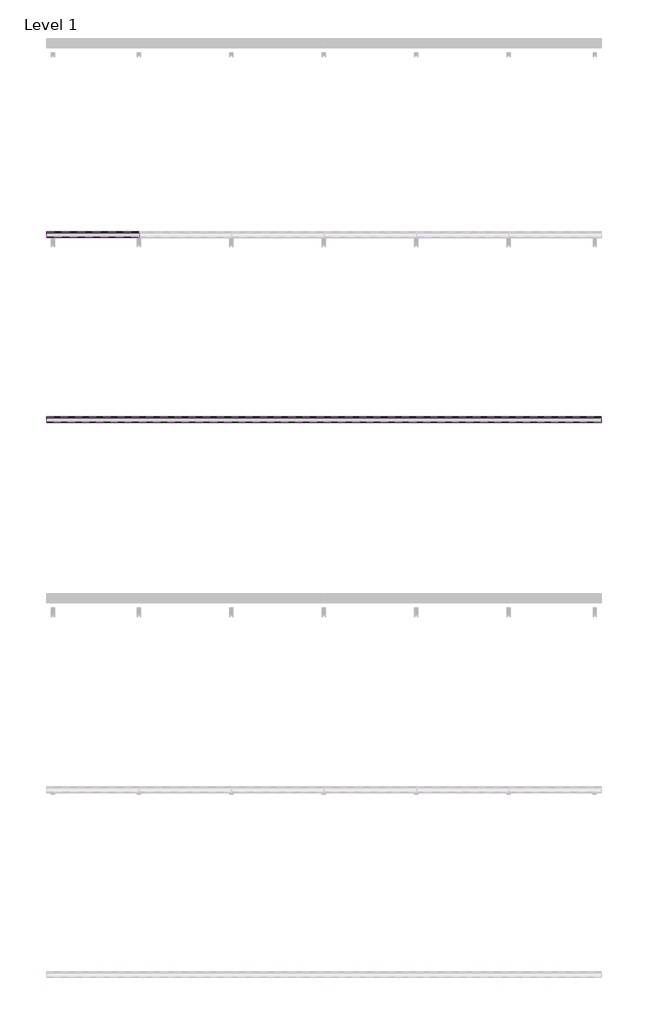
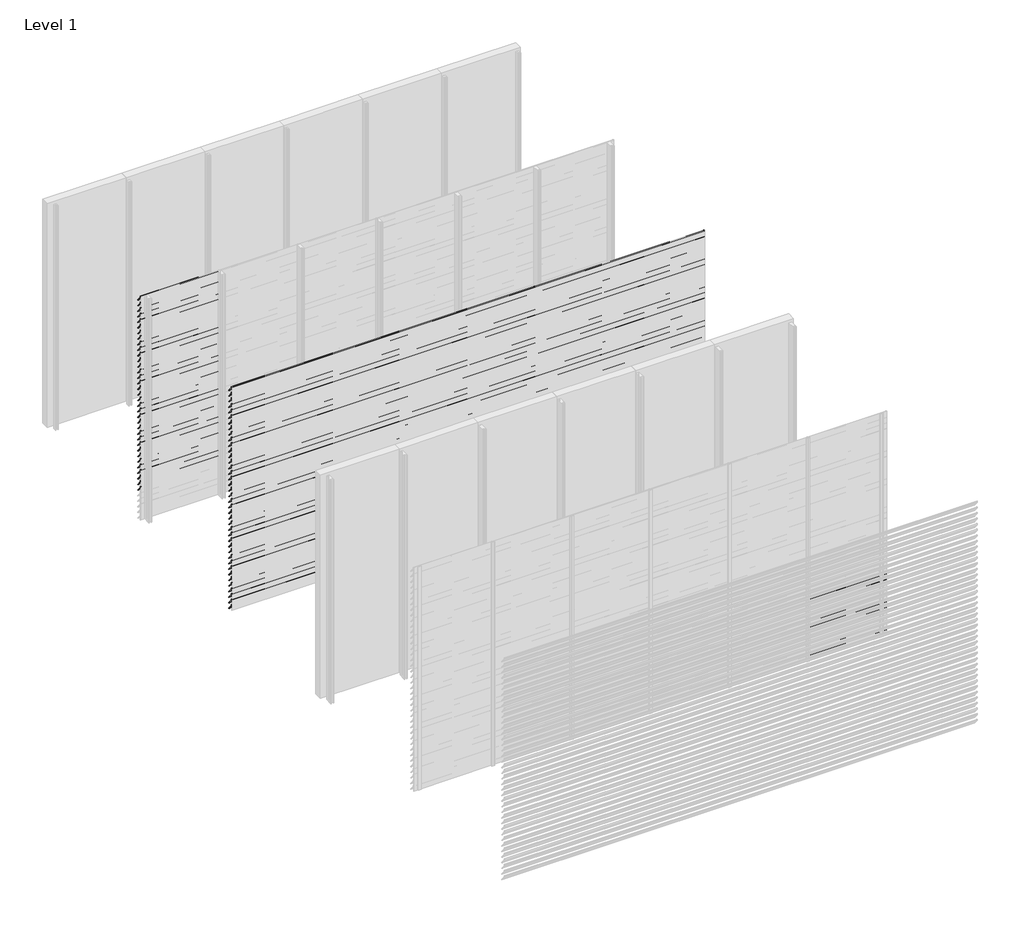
# One storey, part 23 of 35: 86 proxies.
"""IFC4 building model written with IfcOpenShell, lengths in millimetres."""

from ifc_helpers import new_model, si_unit, frame, origin, place, context, project, spatial, polyline, outline, extrude, element, save

model = new_model("IFC4")

# Units and contexts
model_context = context("Model", 3, world=origin())
ifc_project = project(units=[si_unit("LENGTHUNIT", "METRE", prefix="MILLI")], contexts=[model_context])

# Site, building, storey
site = spatial("IfcSite", under=ifc_project)
building = spatial("IfcBuilding", under=site)
storey = spatial("IfcBuildingStorey", under=building, Name="Level 1", Elevation=0.0)

# Proxies
placement = place(None, origin())
element("IfcBuildingElementProxy", 1, Name="Wall Sweeps", at=placement, inside=storey, context=model_context, shape_type="SweptSolid", body=[
    extrude(outline(polyline([(-17996.5, 3000.0), (-17996.5, 2985.5463701), (-17934.5, 2913.9330051), (-17934.5, 2910.4), (-17936.0, 2910.4), (-17936.0, 2913.3738975), (-17998.0, 2984.9872626), (-17998.0, 3000.0), (-17996.5, 3000.0)])), frame((0.0, 0.0, 0.0), z_axis=(1.0, 0.0, 0.0), x_axis=(0.0, 1.0, 0.0)), (0.0, 0.0, 1.0), 1000.0),
])
element("IfcBuildingElementProxy", 2, Name="Wall Sweeps", at=placement, inside=storey, context=model_context, shape_type="SweptSolid", body=[
    extrude(outline(polyline([(-17996.5, 2925.0), (-17996.5, 2910.5463701), (-17934.5, 2838.9330051), (-17934.5, 2835.4), (-17936.0, 2835.4), (-17936.0, 2838.3738975), (-17998.0, 2909.9872626), (-17998.0, 2925.0), (-17996.5, 2925.0)])), frame((0.0, 0.0, 0.0), z_axis=(1.0, 0.0, 0.0), x_axis=(0.0, 1.0, 0.0)), (0.0, 0.0, 1.0), 1000.0),
])
element("IfcBuildingElementProxy", 3, Name="Wall Sweeps", at=placement, inside=storey, context=model_context, shape_type="SweptSolid", body=[
    extrude(outline(polyline([(-17996.5, 2850.0), (-17996.5, 2835.5463701), (-17934.5, 2763.9330051), (-17934.5, 2760.4), (-17936.0, 2760.4), (-17936.0, 2763.3738975), (-17998.0, 2834.9872626), (-17998.0, 2850.0), (-17996.5, 2850.0)])), frame((0.0, 0.0, 0.0), z_axis=(1.0, 0.0, 0.0), x_axis=(0.0, 1.0, 0.0)), (0.0, 0.0, 1.0), 1000.0),
])
element("IfcBuildingElementProxy", 4, Name="Wall Sweeps", at=placement, inside=storey, context=model_context, shape_type="SweptSolid", body=[
    extrude(outline(polyline([(-17996.5, 2775.0), (-17996.5, 2760.5463701), (-17934.5, 2688.9330051), (-17934.5, 2685.4), (-17936.0, 2685.4), (-17936.0, 2688.3738975), (-17998.0, 2759.9872626), (-17998.0, 2775.0), (-17996.5, 2775.0)])), frame((0.0, 0.0, 0.0), z_axis=(1.0, 0.0, 0.0), x_axis=(0.0, 1.0, 0.0)), (0.0, 0.0, 1.0), 1000.0),
])
element("IfcBuildingElementProxy", 5, Name="Wall Sweeps", at=placement, inside=storey, context=model_context, shape_type="SweptSolid", body=[
    extrude(outline(polyline([(-17996.5, 2700.0), (-17996.5, 2685.5463701), (-17934.5, 2613.9330051), (-17934.5, 2610.4), (-17936.0, 2610.4), (-17936.0, 2613.3738975), (-17998.0, 2684.9872626), (-17998.0, 2700.0), (-17996.5, 2700.0)])), frame((0.0, 0.0, 0.0), z_axis=(1.0, 0.0, 0.0), x_axis=(0.0, 1.0, 0.0)), (0.0, 0.0, 1.0), 1000.0),
])
element("IfcBuildingElementProxy", 6, Name="Wall Sweeps", at=placement, inside=storey, context=model_context, shape_type="SweptSolid", body=[
    extrude(outline(polyline([(-17996.5, 2625.0), (-17996.5, 2610.5463701), (-17934.5, 2538.9330051), (-17934.5, 2535.4), (-17936.0, 2535.4), (-17936.0, 2538.3738975), (-17998.0, 2609.9872626), (-17998.0, 2625.0), (-17996.5, 2625.0)])), frame((0.0, 0.0, 0.0), z_axis=(1.0, 0.0, 0.0), x_axis=(0.0, 1.0, 0.0)), (0.0, 0.0, 1.0), 1000.0),
])
element("IfcBuildingElementProxy", 7, Name="Wall Sweeps", at=placement, inside=storey, context=model_context, shape_type="SweptSolid", body=[
    extrude(outline(polyline([(-17996.5, 2550.0), (-17996.5, 2535.5463701), (-17934.5, 2463.9330051), (-17934.5, 2460.4), (-17936.0, 2460.4), (-17936.0, 2463.3738975), (-17998.0, 2534.9872626), (-17998.0, 2550.0), (-17996.5, 2550.0)])), frame((0.0, 0.0, 0.0), z_axis=(1.0, 0.0, 0.0), x_axis=(0.0, 1.0, 0.0)), (0.0, 0.0, 1.0), 1000.0),
])
element("IfcBuildingElementProxy", 8, Name="Wall Sweeps", at=placement, inside=storey, context=model_context, shape_type="SweptSolid", body=[
    extrude(outline(polyline([(-17996.5, 2475.0), (-17996.5, 2460.5463701), (-17934.5, 2388.9330051), (-17934.5, 2385.4), (-17936.0, 2385.4), (-17936.0, 2388.3738975), (-17998.0, 2459.9872626), (-17998.0, 2475.0), (-17996.5, 2475.0)])), frame((0.0, 0.0, 0.0), z_axis=(1.0, 0.0, 0.0), x_axis=(0.0, 1.0, 0.0)), (0.0, 0.0, 1.0), 1000.0),
])
element("IfcBuildingElementProxy", 9, Name="Wall Sweeps", at=placement, inside=storey, context=model_context, shape_type="SweptSolid", body=[
    extrude(outline(polyline([(-17996.5, 2400.0), (-17996.5, 2385.5463701), (-17934.5, 2313.9330051), (-17934.5, 2310.4), (-17936.0, 2310.4), (-17936.0, 2313.3738975), (-17998.0, 2384.9872626), (-17998.0, 2400.0), (-17996.5, 2400.0)])), frame((0.0, 0.0, 0.0), z_axis=(1.0, 0.0, 0.0), x_axis=(0.0, 1.0, 0.0)), (0.0, 0.0, 1.0), 1000.0),
])
element("IfcBuildingElementProxy", 10, Name="Wall Sweeps", at=placement, inside=storey, context=model_context, shape_type="SweptSolid", body=[
    extrude(outline(polyline([(-17996.5, 2325.0), (-17996.5, 2310.5463701), (-17934.5, 2238.9330051), (-17934.5, 2235.4), (-17936.0, 2235.4), (-17936.0, 2238.3738975), (-17998.0, 2309.9872626), (-17998.0, 2325.0), (-17996.5, 2325.0)])), frame((0.0, 0.0, 0.0), z_axis=(1.0, 0.0, 0.0), x_axis=(0.0, 1.0, 0.0)), (0.0, 0.0, 1.0), 1000.0),
])
element("IfcBuildingElementProxy", 11, Name="Wall Sweeps", at=placement, inside=storey, context=model_context, shape_type="SweptSolid", body=[
    extrude(outline(polyline([(-17996.5, 2250.0), (-17996.5, 2235.5463701), (-17934.5, 2163.9330051), (-17934.5, 2160.4), (-17936.0, 2160.4), (-17936.0, 2163.3738975), (-17998.0, 2234.9872626), (-17998.0, 2250.0), (-17996.5, 2250.0)])), frame((0.0, 0.0, 0.0), z_axis=(1.0, 0.0, 0.0), x_axis=(0.0, 1.0, 0.0)), (0.0, 0.0, 1.0), 1000.0),
])
element("IfcBuildingElementProxy", 12, Name="Wall Sweeps", at=placement, inside=storey, context=model_context, shape_type="SweptSolid", body=[
    extrude(outline(polyline([(-17996.5, 2175.0), (-17996.5, 2160.5463701), (-17934.5, 2088.9330051), (-17934.5, 2085.4), (-17936.0, 2085.4), (-17936.0, 2088.3738975), (-17998.0, 2159.9872626), (-17998.0, 2175.0), (-17996.5, 2175.0)])), frame((0.0, 0.0, 0.0), z_axis=(1.0, 0.0, 0.0), x_axis=(0.0, 1.0, 0.0)), (0.0, 0.0, 1.0), 1000.0),
])
element("IfcBuildingElementProxy", 13, Name="Wall Sweeps", at=placement, inside=storey, context=model_context, shape_type="SweptSolid", body=[
    extrude(outline(polyline([(-17996.5, 2100.0), (-17996.5, 2085.5463701), (-17934.5, 2013.9330051), (-17934.5, 2010.4), (-17936.0, 2010.4), (-17936.0, 2013.3738975), (-17998.0, 2084.9872626), (-17998.0, 2100.0), (-17996.5, 2100.0)])), frame((0.0, 0.0, 0.0), z_axis=(1.0, 0.0, 0.0), x_axis=(0.0, 1.0, 0.0)), (0.0, 0.0, 1.0), 1000.0),
])
element("IfcBuildingElementProxy", 14, Name="Wall Sweeps", at=placement, inside=storey, context=model_context, shape_type="SweptSolid", body=[
    extrude(outline(polyline([(-17996.5, 2025.0), (-17996.5, 2010.5463701), (-17934.5, 1938.9330051), (-17934.5, 1935.4), (-17936.0, 1935.4), (-17936.0, 1938.3738975), (-17998.0, 2009.9872626), (-17998.0, 2025.0), (-17996.5, 2025.0)])), frame((0.0, 0.0, 0.0), z_axis=(1.0, 0.0, 0.0), x_axis=(0.0, 1.0, 0.0)), (0.0, 0.0, 1.0), 1000.0),
])
element("IfcBuildingElementProxy", 15, Name="Wall Sweeps", at=placement, inside=storey, context=model_context, shape_type="SweptSolid", body=[
    extrude(outline(polyline([(-17996.5, 1950.0), (-17996.5, 1935.5463701), (-17934.5, 1863.9330051), (-17934.5, 1860.4), (-17936.0, 1860.4), (-17936.0, 1863.3738975), (-17998.0, 1934.9872626), (-17998.0, 1950.0), (-17996.5, 1950.0)])), frame((0.0, 0.0, 0.0), z_axis=(1.0, 0.0, 0.0), x_axis=(0.0, 1.0, 0.0)), (0.0, 0.0, 1.0), 1000.0),
])
element("IfcBuildingElementProxy", 16, Name="Wall Sweeps", at=placement, inside=storey, context=model_context, shape_type="SweptSolid", body=[
    extrude(outline(polyline([(-17996.5, 1875.0), (-17996.5, 1860.5463701), (-17934.5, 1788.9330051), (-17934.5, 1785.4), (-17936.0, 1785.4), (-17936.0, 1788.3738975), (-17998.0, 1859.9872626), (-17998.0, 1875.0), (-17996.5, 1875.0)])), frame((0.0, 0.0, 0.0), z_axis=(1.0, 0.0, 0.0), x_axis=(0.0, 1.0, 0.0)), (0.0, 0.0, 1.0), 1000.0),
])
element("IfcBuildingElementProxy", 17, Name="Wall Sweeps", at=placement, inside=storey, context=model_context, shape_type="SweptSolid", body=[
    extrude(outline(polyline([(-17996.5, 1800.0), (-17996.5, 1785.5463701), (-17934.5, 1713.9330051), (-17934.5, 1710.4), (-17936.0, 1710.4), (-17936.0, 1713.3738975), (-17998.0, 1784.9872626), (-17998.0, 1800.0), (-17996.5, 1800.0)])), frame((0.0, 0.0, 0.0), z_axis=(1.0, 0.0, 0.0), x_axis=(0.0, 1.0, 0.0)), (0.0, 0.0, 1.0), 1000.0),
])
element("IfcBuildingElementProxy", 18, Name="Wall Sweeps", at=placement, inside=storey, context=model_context, shape_type="SweptSolid", body=[
    extrude(outline(polyline([(-17996.5, 1725.0), (-17996.5, 1710.5463701), (-17934.5, 1638.9330051), (-17934.5, 1635.4), (-17936.0, 1635.4), (-17936.0, 1638.3738975), (-17998.0, 1709.9872626), (-17998.0, 1725.0), (-17996.5, 1725.0)])), frame((0.0, 0.0, 0.0), z_axis=(1.0, 0.0, 0.0), x_axis=(0.0, 1.0, 0.0)), (0.0, 0.0, 1.0), 1000.0),
])
element("IfcBuildingElementProxy", 19, Name="Wall Sweeps", at=placement, inside=storey, context=model_context, shape_type="SweptSolid", body=[
    extrude(outline(polyline([(-17996.5, 1650.0), (-17996.5, 1635.5463701), (-17934.5, 1563.9330051), (-17934.5, 1560.4), (-17936.0, 1560.4), (-17936.0, 1563.3738975), (-17998.0, 1634.9872626), (-17998.0, 1650.0), (-17996.5, 1650.0)])), frame((0.0, 0.0, 0.0), z_axis=(1.0, 0.0, 0.0), x_axis=(0.0, 1.0, 0.0)), (0.0, 0.0, 1.0), 1000.0),
])
element("IfcBuildingElementProxy", 20, Name="Wall Sweeps", at=placement, inside=storey, context=model_context, shape_type="SweptSolid", body=[
    extrude(outline(polyline([(-17996.5, 1575.0), (-17996.5, 1560.5463701), (-17934.5, 1488.9330051), (-17934.5, 1485.4), (-17936.0, 1485.4), (-17936.0, 1488.3738975), (-17998.0, 1559.9872626), (-17998.0, 1575.0), (-17996.5, 1575.0)])), frame((0.0, 0.0, 0.0), z_axis=(1.0, 0.0, 0.0), x_axis=(0.0, 1.0, 0.0)), (0.0, 0.0, 1.0), 1000.0),
])
element("IfcBuildingElementProxy", 21, Name="Wall Sweeps", at=placement, inside=storey, context=model_context, shape_type="SweptSolid", body=[
    extrude(outline(polyline([(-17996.5, 1500.0), (-17996.5, 1485.5463701), (-17934.5, 1413.9330051), (-17934.5, 1410.4), (-17936.0, 1410.4), (-17936.0, 1413.3738975), (-17998.0, 1484.9872626), (-17998.0, 1500.0), (-17996.5, 1500.0)])), frame((0.0, 0.0, 0.0), z_axis=(1.0, 0.0, 0.0), x_axis=(0.0, 1.0, 0.0)), (0.0, 0.0, 1.0), 1000.0),
])
element("IfcBuildingElementProxy", 22, Name="Wall Sweeps", at=placement, inside=storey, context=model_context, shape_type="SweptSolid", body=[
    extrude(outline(polyline([(-17996.5, 1425.0), (-17996.5, 1410.5463701), (-17934.5, 1338.9330051), (-17934.5, 1335.4), (-17936.0, 1335.4), (-17936.0, 1338.3738975), (-17998.0, 1409.9872626), (-17998.0, 1425.0), (-17996.5, 1425.0)])), frame((0.0, 0.0, 0.0), z_axis=(1.0, 0.0, 0.0), x_axis=(0.0, 1.0, 0.0)), (0.0, 0.0, 1.0), 1000.0),
])
element("IfcBuildingElementProxy", 23, Name="Wall Sweeps", at=placement, inside=storey, context=model_context, shape_type="SweptSolid", body=[
    extrude(outline(polyline([(-17996.5, 1350.0), (-17996.5, 1335.5463701), (-17934.5, 1263.9330051), (-17934.5, 1260.4), (-17936.0, 1260.4), (-17936.0, 1263.3738975), (-17998.0, 1334.9872626), (-17998.0, 1350.0), (-17996.5, 1350.0)])), frame((0.0, 0.0, 0.0), z_axis=(1.0, 0.0, 0.0), x_axis=(0.0, 1.0, 0.0)), (0.0, 0.0, 1.0), 1000.0),
])
element("IfcBuildingElementProxy", 24, Name="Wall Sweeps", at=placement, inside=storey, context=model_context, shape_type="SweptSolid", body=[
    extrude(outline(polyline([(-17996.5, 1275.0), (-17996.5, 1260.5463701), (-17934.5, 1188.9330051), (-17934.5, 1185.4), (-17936.0, 1185.4), (-17936.0, 1188.3738975), (-17998.0, 1259.9872626), (-17998.0, 1275.0), (-17996.5, 1275.0)])), frame((0.0, 0.0, 0.0), z_axis=(1.0, 0.0, 0.0), x_axis=(0.0, 1.0, 0.0)), (0.0, 0.0, 1.0), 1000.0),
])
element("IfcBuildingElementProxy", 25, Name="Wall Sweeps", at=placement, inside=storey, context=model_context, shape_type="SweptSolid", body=[
    extrude(outline(polyline([(-17996.5, 1200.0), (-17996.5, 1185.5463701), (-17934.5, 1113.9330051), (-17934.5, 1110.4), (-17936.0, 1110.4), (-17936.0, 1113.3738975), (-17998.0, 1184.9872626), (-17998.0, 1200.0), (-17996.5, 1200.0)])), frame((0.0, 0.0, 0.0), z_axis=(1.0, 0.0, 0.0), x_axis=(0.0, 1.0, 0.0)), (0.0, 0.0, 1.0), 1000.0),
])
element("IfcBuildingElementProxy", 26, Name="Wall Sweeps", at=placement, inside=storey, context=model_context, shape_type="SweptSolid", body=[
    extrude(outline(polyline([(-17996.5, 1125.0), (-17996.5, 1110.5463701), (-17934.5, 1038.9330051), (-17934.5, 1035.4), (-17936.0, 1035.4), (-17936.0, 1038.3738975), (-17998.0, 1109.9872626), (-17998.0, 1125.0), (-17996.5, 1125.0)])), frame((0.0, 0.0, 0.0), z_axis=(1.0, 0.0, 0.0), x_axis=(0.0, 1.0, 0.0)), (0.0, 0.0, 1.0), 1000.0),
])
element("IfcBuildingElementProxy", 27, Name="Wall Sweeps", at=placement, inside=storey, context=model_context, shape_type="SweptSolid", body=[
    extrude(outline(polyline([(-17996.5, 1050.0), (-17996.5, 1035.5463701), (-17934.5, 963.9330051), (-17934.5, 960.4), (-17936.0, 960.4), (-17936.0, 963.3738975), (-17998.0, 1034.9872626), (-17998.0, 1050.0), (-17996.5, 1050.0)])), frame((0.0, 0.0, 0.0), z_axis=(1.0, 0.0, 0.0), x_axis=(0.0, 1.0, 0.0)), (0.0, 0.0, 1.0), 1000.0),
])
element("IfcBuildingElementProxy", 28, Name="Wall Sweeps", at=placement, inside=storey, context=model_context, shape_type="SweptSolid", body=[
    extrude(outline(polyline([(-17996.5, 975.0), (-17996.5, 960.5463701), (-17934.5, 888.9330051), (-17934.5, 885.4), (-17936.0, 885.4), (-17936.0, 888.3738975), (-17998.0, 959.9872626), (-17998.0, 975.0), (-17996.5, 975.0)])), frame((0.0, 0.0, 0.0), z_axis=(1.0, 0.0, 0.0), x_axis=(0.0, 1.0, 0.0)), (0.0, 0.0, 1.0), 1000.0),
])
element("IfcBuildingElementProxy", 29, Name="Wall Sweeps", at=placement, inside=storey, context=model_context, shape_type="SweptSolid", body=[
    extrude(outline(polyline([(-17996.5, 900.0), (-17996.5, 885.5463701), (-17934.5, 813.9330051), (-17934.5, 810.4), (-17936.0, 810.4), (-17936.0, 813.3738975), (-17998.0, 884.9872626), (-17998.0, 900.0), (-17996.5, 900.0)])), frame((0.0, 0.0, 0.0), z_axis=(1.0, 0.0, 0.0), x_axis=(0.0, 1.0, 0.0)), (0.0, 0.0, 1.0), 1000.0),
])
element("IfcBuildingElementProxy", 30, Name="Wall Sweeps", at=placement, inside=storey, context=model_context, shape_type="SweptSolid", body=[
    extrude(outline(polyline([(-17996.5, 825.0), (-17996.5, 810.5463701), (-17934.5, 738.9330051), (-17934.5, 735.4), (-17936.0, 735.4), (-17936.0, 738.3738975), (-17998.0, 809.9872626), (-17998.0, 825.0), (-17996.5, 825.0)])), frame((0.0, 0.0, 0.0), z_axis=(1.0, 0.0, 0.0), x_axis=(0.0, 1.0, 0.0)), (0.0, 0.0, 1.0), 1000.0),
])
element("IfcBuildingElementProxy", 31, Name="Wall Sweeps", at=placement, inside=storey, context=model_context, shape_type="SweptSolid", body=[
    extrude(outline(polyline([(-17996.5, 750.0), (-17996.5, 735.5463701), (-17934.5, 663.9330051), (-17934.5, 660.4), (-17936.0, 660.4), (-17936.0, 663.3738975), (-17998.0, 734.9872626), (-17998.0, 750.0), (-17996.5, 750.0)])), frame((0.0, 0.0, 0.0), z_axis=(1.0, 0.0, 0.0), x_axis=(0.0, 1.0, 0.0)), (0.0, 0.0, 1.0), 1000.0),
])
element("IfcBuildingElementProxy", 32, Name="Wall Sweeps", at=placement, inside=storey, context=model_context, shape_type="SweptSolid", body=[
    extrude(outline(polyline([(-17996.5, 675.0), (-17996.5, 660.5463701), (-17934.5, 588.9330051), (-17934.5, 585.4), (-17936.0, 585.4), (-17936.0, 588.3738975), (-17998.0, 659.9872626), (-17998.0, 675.0), (-17996.5, 675.0)])), frame((0.0, 0.0, 0.0), z_axis=(1.0, 0.0, 0.0), x_axis=(0.0, 1.0, 0.0)), (0.0, 0.0, 1.0), 1000.0),
])
element("IfcBuildingElementProxy", 33, Name="Wall Sweeps", at=placement, inside=storey, context=model_context, shape_type="SweptSolid", body=[
    extrude(outline(polyline([(-17996.5, 600.0), (-17996.5, 585.5463701), (-17934.5, 513.9330051), (-17934.5, 510.4), (-17936.0, 510.4), (-17936.0, 513.3738975), (-17998.0, 584.9872626), (-17998.0, 600.0), (-17996.5, 600.0)])), frame((0.0, 0.0, 0.0), z_axis=(1.0, 0.0, 0.0), x_axis=(0.0, 1.0, 0.0)), (0.0, 0.0, 1.0), 1000.0),
])
element("IfcBuildingElementProxy", 34, Name="Wall Sweeps", at=placement, inside=storey, context=model_context, shape_type="SweptSolid", body=[
    extrude(outline(polyline([(-17996.5, 525.0), (-17996.5, 510.5463701), (-17934.5, 438.9330051), (-17934.5, 435.4), (-17936.0, 435.4), (-17936.0, 438.3738975), (-17998.0, 509.9872626), (-17998.0, 525.0), (-17996.5, 525.0)])), frame((0.0, 0.0, 0.0), z_axis=(1.0, 0.0, 0.0), x_axis=(0.0, 1.0, 0.0)), (0.0, 0.0, 1.0), 1000.0),
])
element("IfcBuildingElementProxy", 35, Name="Wall Sweeps", at=placement, inside=storey, context=model_context, shape_type="SweptSolid", body=[
    extrude(outline(polyline([(-17996.5, 450.0), (-17996.5, 435.5463701), (-17934.5, 363.9330051), (-17934.5, 360.4), (-17936.0, 360.4), (-17936.0, 363.3738975), (-17998.0, 434.9872626), (-17998.0, 450.0), (-17996.5, 450.0)])), frame((0.0, 0.0, 0.0), z_axis=(1.0, 0.0, 0.0), x_axis=(0.0, 1.0, 0.0)), (0.0, 0.0, 1.0), 1000.0),
])
element("IfcBuildingElementProxy", 36, Name="Wall Sweeps", at=placement, inside=storey, context=model_context, shape_type="SweptSolid", body=[
    extrude(outline(polyline([(-19996.5, 3000.0), (-19996.5, 2985.5463701), (-19934.5, 2913.9330051), (-19934.5, 2910.4), (-19936.0, 2910.4), (-19936.0, 2913.3738975), (-19998.0, 2984.9872626), (-19998.0, 3000.0), (-19996.5, 3000.0)])), frame((0.0, 0.0, 0.0), z_axis=(1.0, 0.0, 0.0), x_axis=(0.0, 1.0, 0.0)), (0.0, 0.0, 1.0), 6000.0),
])
element("IfcBuildingElementProxy", 37, Name="Wall Sweeps", at=placement, inside=storey, context=model_context, shape_type="SweptSolid", body=[
    extrude(outline(polyline([(-19996.5, 2925.0), (-19996.5, 2910.5463701), (-19934.5, 2838.9330051), (-19934.5, 2835.4), (-19936.0, 2835.4), (-19936.0, 2838.3738975), (-19998.0, 2909.9872626), (-19998.0, 2925.0), (-19996.5, 2925.0)])), frame((0.0, 0.0, 0.0), z_axis=(1.0, 0.0, 0.0), x_axis=(0.0, 1.0, 0.0)), (0.0, 0.0, 1.0), 6000.0),
])
element("IfcBuildingElementProxy", 38, Name="Wall Sweeps", at=placement, inside=storey, context=model_context, shape_type="SweptSolid", body=[
    extrude(outline(polyline([(-19996.5, 2850.0), (-19996.5, 2835.5463701), (-19934.5, 2763.9330051), (-19934.5, 2760.4), (-19936.0, 2760.4), (-19936.0, 2763.3738975), (-19998.0, 2834.9872626), (-19998.0, 2850.0), (-19996.5, 2850.0)])), frame((0.0, 0.0, 0.0), z_axis=(1.0, 0.0, 0.0), x_axis=(0.0, 1.0, 0.0)), (0.0, 0.0, 1.0), 6000.0),
])
element("IfcBuildingElementProxy", 39, Name="Wall Sweeps", at=placement, inside=storey, context=model_context, shape_type="SweptSolid", body=[
    extrude(outline(polyline([(-19996.5, 2775.0), (-19996.5, 2760.5463701), (-19934.5, 2688.9330051), (-19934.5, 2685.4), (-19936.0, 2685.4), (-19936.0, 2688.3738975), (-19998.0, 2759.9872626), (-19998.0, 2775.0), (-19996.5, 2775.0)])), frame((0.0, 0.0, 0.0), z_axis=(1.0, 0.0, 0.0), x_axis=(0.0, 1.0, 0.0)), (0.0, 0.0, 1.0), 6000.0),
])
element("IfcBuildingElementProxy", 40, Name="Wall Sweeps", at=placement, inside=storey, context=model_context, shape_type="SweptSolid", body=[
    extrude(outline(polyline([(-19996.5, 2700.0), (-19996.5, 2685.5463701), (-19934.5, 2613.9330051), (-19934.5, 2610.4), (-19936.0, 2610.4), (-19936.0, 2613.3738975), (-19998.0, 2684.9872626), (-19998.0, 2700.0), (-19996.5, 2700.0)])), frame((0.0, 0.0, 0.0), z_axis=(1.0, 0.0, 0.0), x_axis=(0.0, 1.0, 0.0)), (0.0, 0.0, 1.0), 6000.0),
])
element("IfcBuildingElementProxy", 41, Name="Wall Sweeps", at=placement, inside=storey, context=model_context, shape_type="SweptSolid", body=[
    extrude(outline(polyline([(-19996.5, 2625.0), (-19996.5, 2610.5463701), (-19934.5, 2538.9330051), (-19934.5, 2535.4), (-19936.0, 2535.4), (-19936.0, 2538.3738975), (-19998.0, 2609.9872626), (-19998.0, 2625.0), (-19996.5, 2625.0)])), frame((0.0, 0.0, 0.0), z_axis=(1.0, 0.0, 0.0), x_axis=(0.0, 1.0, 0.0)), (0.0, 0.0, 1.0), 6000.0),
])
element("IfcBuildingElementProxy", 42, Name="Wall Sweeps", at=placement, inside=storey, context=model_context, shape_type="SweptSolid", body=[
    extrude(outline(polyline([(-19996.5, 2550.0), (-19996.5, 2535.5463701), (-19934.5, 2463.9330051), (-19934.5, 2460.4), (-19936.0, 2460.4), (-19936.0, 2463.3738975), (-19998.0, 2534.9872626), (-19998.0, 2550.0), (-19996.5, 2550.0)])), frame((0.0, 0.0, 0.0), z_axis=(1.0, 0.0, 0.0), x_axis=(0.0, 1.0, 0.0)), (0.0, 0.0, 1.0), 6000.0),
])
element("IfcBuildingElementProxy", 43, Name="Wall Sweeps", at=placement, inside=storey, context=model_context, shape_type="SweptSolid", body=[
    extrude(outline(polyline([(-19996.5, 2475.0), (-19996.5, 2460.5463701), (-19934.5, 2388.9330051), (-19934.5, 2385.4), (-19936.0, 2385.4), (-19936.0, 2388.3738975), (-19998.0, 2459.9872626), (-19998.0, 2475.0), (-19996.5, 2475.0)])), frame((0.0, 0.0, 0.0), z_axis=(1.0, 0.0, 0.0), x_axis=(0.0, 1.0, 0.0)), (0.0, 0.0, 1.0), 6000.0),
])
element("IfcBuildingElementProxy", 44, Name="Wall Sweeps", at=placement, inside=storey, context=model_context, shape_type="SweptSolid", body=[
    extrude(outline(polyline([(-19996.5, 2400.0), (-19996.5, 2385.5463701), (-19934.5, 2313.9330051), (-19934.5, 2310.4), (-19936.0, 2310.4), (-19936.0, 2313.3738975), (-19998.0, 2384.9872626), (-19998.0, 2400.0), (-19996.5, 2400.0)])), frame((0.0, 0.0, 0.0), z_axis=(1.0, 0.0, 0.0), x_axis=(0.0, 1.0, 0.0)), (0.0, 0.0, 1.0), 6000.0),
])
element("IfcBuildingElementProxy", 45, Name="Wall Sweeps", at=placement, inside=storey, context=model_context, shape_type="SweptSolid", body=[
    extrude(outline(polyline([(-19996.5, 2325.0), (-19996.5, 2310.5463701), (-19934.5, 2238.9330051), (-19934.5, 2235.4), (-19936.0, 2235.4), (-19936.0, 2238.3738975), (-19998.0, 2309.9872626), (-19998.0, 2325.0), (-19996.5, 2325.0)])), frame((0.0, 0.0, 0.0), z_axis=(1.0, 0.0, 0.0), x_axis=(0.0, 1.0, 0.0)), (0.0, 0.0, 1.0), 6000.0),
])
element("IfcBuildingElementProxy", 46, Name="Wall Sweeps", at=placement, inside=storey, context=model_context, shape_type="SweptSolid", body=[
    extrude(outline(polyline([(-19996.5, 2250.0), (-19996.5, 2235.5463701), (-19934.5, 2163.9330051), (-19934.5, 2160.4), (-19936.0, 2160.4), (-19936.0, 2163.3738975), (-19998.0, 2234.9872626), (-19998.0, 2250.0), (-19996.5, 2250.0)])), frame((0.0, 0.0, 0.0), z_axis=(1.0, 0.0, 0.0), x_axis=(0.0, 1.0, 0.0)), (0.0, 0.0, 1.0), 6000.0),
])
element("IfcBuildingElementProxy", 47, Name="Wall Sweeps", at=placement, inside=storey, context=model_context, shape_type="SweptSolid", body=[
    extrude(outline(polyline([(-19996.5, 2175.0), (-19996.5, 2160.5463701), (-19934.5, 2088.9330051), (-19934.5, 2085.4), (-19936.0, 2085.4), (-19936.0, 2088.3738975), (-19998.0, 2159.9872626), (-19998.0, 2175.0), (-19996.5, 2175.0)])), frame((0.0, 0.0, 0.0), z_axis=(1.0, 0.0, 0.0), x_axis=(0.0, 1.0, 0.0)), (0.0, 0.0, 1.0), 6000.0),
])
element("IfcBuildingElementProxy", 48, Name="Wall Sweeps", at=placement, inside=storey, context=model_context, shape_type="SweptSolid", body=[
    extrude(outline(polyline([(-19996.5, 2100.0), (-19996.5, 2085.5463701), (-19934.5, 2013.9330051), (-19934.5, 2010.4), (-19936.0, 2010.4), (-19936.0, 2013.3738975), (-19998.0, 2084.9872626), (-19998.0, 2100.0), (-19996.5, 2100.0)])), frame((0.0, 0.0, 0.0), z_axis=(1.0, 0.0, 0.0), x_axis=(0.0, 1.0, 0.0)), (0.0, 0.0, 1.0), 6000.0),
])
element("IfcBuildingElementProxy", 49, Name="Wall Sweeps", at=placement, inside=storey, context=model_context, shape_type="SweptSolid", body=[
    extrude(outline(polyline([(-19996.5, 2025.0), (-19996.5, 2010.5463701), (-19934.5, 1938.9330051), (-19934.5, 1935.4), (-19936.0, 1935.4), (-19936.0, 1938.3738975), (-19998.0, 2009.9872626), (-19998.0, 2025.0), (-19996.5, 2025.0)])), frame((0.0, 0.0, 0.0), z_axis=(1.0, 0.0, 0.0), x_axis=(0.0, 1.0, 0.0)), (0.0, 0.0, 1.0), 6000.0),
])
element("IfcBuildingElementProxy", 50, Name="Wall Sweeps", at=placement, inside=storey, context=model_context, shape_type="SweptSolid", body=[
    extrude(outline(polyline([(-19996.5, 1950.0), (-19996.5, 1935.5463701), (-19934.5, 1863.9330051), (-19934.5, 1860.4), (-19936.0, 1860.4), (-19936.0, 1863.3738975), (-19998.0, 1934.9872626), (-19998.0, 1950.0), (-19996.5, 1950.0)])), frame((0.0, 0.0, 0.0), z_axis=(1.0, 0.0, 0.0), x_axis=(0.0, 1.0, 0.0)), (0.0, 0.0, 1.0), 6000.0),
])
element("IfcBuildingElementProxy", 51, Name="Wall Sweeps", at=placement, inside=storey, context=model_context, shape_type="SweptSolid", body=[
    extrude(outline(polyline([(-19996.5, 1875.0), (-19996.5, 1860.5463701), (-19934.5, 1788.9330051), (-19934.5, 1785.4), (-19936.0, 1785.4), (-19936.0, 1788.3738975), (-19998.0, 1859.9872626), (-19998.0, 1875.0), (-19996.5, 1875.0)])), frame((0.0, 0.0, 0.0), z_axis=(1.0, 0.0, 0.0), x_axis=(0.0, 1.0, 0.0)), (0.0, 0.0, 1.0), 6000.0),
])
element("IfcBuildingElementProxy", 52, Name="Wall Sweeps", at=placement, inside=storey, context=model_context, shape_type="SweptSolid", body=[
    extrude(outline(polyline([(-19996.5, 1800.0), (-19996.5, 1785.5463701), (-19934.5, 1713.9330051), (-19934.5, 1710.4), (-19936.0, 1710.4), (-19936.0, 1713.3738975), (-19998.0, 1784.9872626), (-19998.0, 1800.0), (-19996.5, 1800.0)])), frame((0.0, 0.0, 0.0), z_axis=(1.0, 0.0, 0.0), x_axis=(0.0, 1.0, 0.0)), (0.0, 0.0, 1.0), 6000.0),
])
element("IfcBuildingElementProxy", 53, Name="Wall Sweeps", at=placement, inside=storey, context=model_context, shape_type="SweptSolid", body=[
    extrude(outline(polyline([(-19996.5, 1725.0), (-19996.5, 1710.5463701), (-19934.5, 1638.9330051), (-19934.5, 1635.4), (-19936.0, 1635.4), (-19936.0, 1638.3738975), (-19998.0, 1709.9872626), (-19998.0, 1725.0), (-19996.5, 1725.0)])), frame((0.0, 0.0, 0.0), z_axis=(1.0, 0.0, 0.0), x_axis=(0.0, 1.0, 0.0)), (0.0, 0.0, 1.0), 6000.0),
])
element("IfcBuildingElementProxy", 54, Name="Wall Sweeps", at=placement, inside=storey, context=model_context, shape_type="SweptSolid", body=[
    extrude(outline(polyline([(-19996.5, 1650.0), (-19996.5, 1635.5463701), (-19934.5, 1563.9330051), (-19934.5, 1560.4), (-19936.0, 1560.4), (-19936.0, 1563.3738975), (-19998.0, 1634.9872626), (-19998.0, 1650.0), (-19996.5, 1650.0)])), frame((0.0, 0.0, 0.0), z_axis=(1.0, 0.0, 0.0), x_axis=(0.0, 1.0, 0.0)), (0.0, 0.0, 1.0), 6000.0),
])
element("IfcBuildingElementProxy", 55, Name="Wall Sweeps", at=placement, inside=storey, context=model_context, shape_type="SweptSolid", body=[
    extrude(outline(polyline([(-19996.5, 1575.0), (-19996.5, 1560.5463701), (-19934.5, 1488.9330051), (-19934.5, 1485.4), (-19936.0, 1485.4), (-19936.0, 1488.3738975), (-19998.0, 1559.9872626), (-19998.0, 1575.0), (-19996.5, 1575.0)])), frame((0.0, 0.0, 0.0), z_axis=(1.0, 0.0, 0.0), x_axis=(0.0, 1.0, 0.0)), (0.0, 0.0, 1.0), 6000.0),
])
element("IfcBuildingElementProxy", 56, Name="Wall Sweeps", at=placement, inside=storey, context=model_context, shape_type="SweptSolid", body=[
    extrude(outline(polyline([(-19996.5, 1500.0), (-19996.5, 1485.5463701), (-19934.5, 1413.9330051), (-19934.5, 1410.4), (-19936.0, 1410.4), (-19936.0, 1413.3738975), (-19998.0, 1484.9872626), (-19998.0, 1500.0), (-19996.5, 1500.0)])), frame((0.0, 0.0, 0.0), z_axis=(1.0, 0.0, 0.0), x_axis=(0.0, 1.0, 0.0)), (0.0, 0.0, 1.0), 6000.0),
])
element("IfcBuildingElementProxy", 57, Name="Wall Sweeps", at=placement, inside=storey, context=model_context, shape_type="SweptSolid", body=[
    extrude(outline(polyline([(-19996.5, 1425.0), (-19996.5, 1410.5463701), (-19934.5, 1338.9330051), (-19934.5, 1335.4), (-19936.0, 1335.4), (-19936.0, 1338.3738975), (-19998.0, 1409.9872626), (-19998.0, 1425.0), (-19996.5, 1425.0)])), frame((0.0, 0.0, 0.0), z_axis=(1.0, 0.0, 0.0), x_axis=(0.0, 1.0, 0.0)), (0.0, 0.0, 1.0), 6000.0),
])
element("IfcBuildingElementProxy", 58, Name="Wall Sweeps", at=placement, inside=storey, context=model_context, shape_type="SweptSolid", body=[
    extrude(outline(polyline([(-19996.5, 1350.0), (-19996.5, 1335.5463701), (-19934.5, 1263.9330051), (-19934.5, 1260.4), (-19936.0, 1260.4), (-19936.0, 1263.3738975), (-19998.0, 1334.9872626), (-19998.0, 1350.0), (-19996.5, 1350.0)])), frame((0.0, 0.0, 0.0), z_axis=(1.0, 0.0, 0.0), x_axis=(0.0, 1.0, 0.0)), (0.0, 0.0, 1.0), 6000.0),
])
element("IfcBuildingElementProxy", 59, Name="Wall Sweeps", at=placement, inside=storey, context=model_context, shape_type="SweptSolid", body=[
    extrude(outline(polyline([(-19996.5, 1275.0), (-19996.5, 1260.5463701), (-19934.5, 1188.9330051), (-19934.5, 1185.4), (-19936.0, 1185.4), (-19936.0, 1188.3738975), (-19998.0, 1259.9872626), (-19998.0, 1275.0), (-19996.5, 1275.0)])), frame((0.0, 0.0, 0.0), z_axis=(1.0, 0.0, 0.0), x_axis=(0.0, 1.0, 0.0)), (0.0, 0.0, 1.0), 6000.0),
])
element("IfcBuildingElementProxy", 60, Name="Wall Sweeps", at=placement, inside=storey, context=model_context, shape_type="SweptSolid", body=[
    extrude(outline(polyline([(-19996.5, 1200.0), (-19996.5, 1185.5463701), (-19934.5, 1113.9330051), (-19934.5, 1110.4), (-19936.0, 1110.4), (-19936.0, 1113.3738975), (-19998.0, 1184.9872626), (-19998.0, 1200.0), (-19996.5, 1200.0)])), frame((0.0, 0.0, 0.0), z_axis=(1.0, 0.0, 0.0), x_axis=(0.0, 1.0, 0.0)), (0.0, 0.0, 1.0), 6000.0),
])
element("IfcBuildingElementProxy", 61, Name="Wall Sweeps", at=placement, inside=storey, context=model_context, shape_type="SweptSolid", body=[
    extrude(outline(polyline([(-19996.5, 1125.0), (-19996.5, 1110.5463701), (-19934.5, 1038.9330051), (-19934.5, 1035.4), (-19936.0, 1035.4), (-19936.0, 1038.3738975), (-19998.0, 1109.9872626), (-19998.0, 1125.0), (-19996.5, 1125.0)])), frame((0.0, 0.0, 0.0), z_axis=(1.0, 0.0, 0.0), x_axis=(0.0, 1.0, 0.0)), (0.0, 0.0, 1.0), 6000.0),
])
element("IfcBuildingElementProxy", 62, Name="Wall Sweeps", at=placement, inside=storey, context=model_context, shape_type="SweptSolid", body=[
    extrude(outline(polyline([(-19996.5, 1050.0), (-19996.5, 1035.5463701), (-19934.5, 963.9330051), (-19934.5, 960.4), (-19936.0, 960.4), (-19936.0, 963.3738975), (-19998.0, 1034.9872626), (-19998.0, 1050.0), (-19996.5, 1050.0)])), frame((0.0, 0.0, 0.0), z_axis=(1.0, 0.0, 0.0), x_axis=(0.0, 1.0, 0.0)), (0.0, 0.0, 1.0), 6000.0),
])
element("IfcBuildingElementProxy", 63, Name="Wall Sweeps", at=placement, inside=storey, context=model_context, shape_type="SweptSolid", body=[
    extrude(outline(polyline([(-19996.5, 975.0), (-19996.5, 960.5463701), (-19934.5, 888.9330051), (-19934.5, 885.4), (-19936.0, 885.4), (-19936.0, 888.3738975), (-19998.0, 959.9872626), (-19998.0, 975.0), (-19996.5, 975.0)])), frame((0.0, 0.0, 0.0), z_axis=(1.0, 0.0, 0.0), x_axis=(0.0, 1.0, 0.0)), (0.0, 0.0, 1.0), 6000.0),
])
element("IfcBuildingElementProxy", 64, Name="Wall Sweeps", at=placement, inside=storey, context=model_context, shape_type="SweptSolid", body=[
    extrude(outline(polyline([(-19996.5, 900.0), (-19996.5, 885.5463701), (-19934.5, 813.9330051), (-19934.5, 810.4), (-19936.0, 810.4), (-19936.0, 813.3738975), (-19998.0, 884.9872626), (-19998.0, 900.0), (-19996.5, 900.0)])), frame((0.0, 0.0, 0.0), z_axis=(1.0, 0.0, 0.0), x_axis=(0.0, 1.0, 0.0)), (0.0, 0.0, 1.0), 6000.0),
])
element("IfcBuildingElementProxy", 65, Name="Wall Sweeps", at=placement, inside=storey, context=model_context, shape_type="SweptSolid", body=[
    extrude(outline(polyline([(-19996.5, 825.0), (-19996.5, 810.5463701), (-19934.5, 738.9330051), (-19934.5, 735.4), (-19936.0, 735.4), (-19936.0, 738.3738975), (-19998.0, 809.9872626), (-19998.0, 825.0), (-19996.5, 825.0)])), frame((0.0, 0.0, 0.0), z_axis=(1.0, 0.0, 0.0), x_axis=(0.0, 1.0, 0.0)), (0.0, 0.0, 1.0), 6000.0),
])
element("IfcBuildingElementProxy", 66, Name="Wall Sweeps", at=placement, inside=storey, context=model_context, shape_type="SweptSolid", body=[
    extrude(outline(polyline([(-19996.5, 750.0), (-19996.5, 735.5463701), (-19934.5, 663.9330051), (-19934.5, 660.4), (-19936.0, 660.4), (-19936.0, 663.3738975), (-19998.0, 734.9872626), (-19998.0, 750.0), (-19996.5, 750.0)])), frame((0.0, 0.0, 0.0), z_axis=(1.0, 0.0, 0.0), x_axis=(0.0, 1.0, 0.0)), (0.0, 0.0, 1.0), 6000.0),
])
element("IfcBuildingElementProxy", 67, Name="Wall Sweeps", at=placement, inside=storey, context=model_context, shape_type="SweptSolid", body=[
    extrude(outline(polyline([(-19996.5, 675.0), (-19996.5, 660.5463701), (-19934.5, 588.9330051), (-19934.5, 585.4), (-19936.0, 585.4), (-19936.0, 588.3738975), (-19998.0, 659.9872626), (-19998.0, 675.0), (-19996.5, 675.0)])), frame((0.0, 0.0, 0.0), z_axis=(1.0, 0.0, 0.0), x_axis=(0.0, 1.0, 0.0)), (0.0, 0.0, 1.0), 6000.0),
])
element("IfcBuildingElementProxy", 68, Name="Wall Sweeps", at=placement, inside=storey, context=model_context, shape_type="SweptSolid", body=[
    extrude(outline(polyline([(-19996.5, 600.0), (-19996.5, 585.5463701), (-19934.5, 513.9330051), (-19934.5, 510.4), (-19936.0, 510.4), (-19936.0, 513.3738975), (-19998.0, 584.9872626), (-19998.0, 600.0), (-19996.5, 600.0)])), frame((0.0, 0.0, 0.0), z_axis=(1.0, 0.0, 0.0), x_axis=(0.0, 1.0, 0.0)), (0.0, 0.0, 1.0), 6000.0),
])
element("IfcBuildingElementProxy", 69, Name="Wall Sweeps", at=placement, inside=storey, context=model_context, shape_type="SweptSolid", body=[
    extrude(outline(polyline([(-19996.5, 525.0), (-19996.5, 510.5463701), (-19934.5, 438.9330051), (-19934.5, 435.4), (-19936.0, 435.4), (-19936.0, 438.3738975), (-19998.0, 509.9872626), (-19998.0, 525.0), (-19996.5, 525.0)])), frame((0.0, 0.0, 0.0), z_axis=(1.0, 0.0, 0.0), x_axis=(0.0, 1.0, 0.0)), (0.0, 0.0, 1.0), 6000.0),
])
element("IfcBuildingElementProxy", 70, Name="Wall Sweeps", at=placement, inside=storey, context=model_context, shape_type="SweptSolid", body=[
    extrude(outline(polyline([(-19996.5, 450.0), (-19996.5, 435.5463701), (-19934.5, 363.9330051), (-19934.5, 360.4), (-19936.0, 360.4), (-19936.0, 363.3738975), (-19998.0, 434.9872626), (-19998.0, 450.0), (-19996.5, 450.0)])), frame((0.0, 0.0, 0.0), z_axis=(1.0, 0.0, 0.0), x_axis=(0.0, 1.0, 0.0)), (0.0, 0.0, 1.0), 6000.0),
])
element("IfcBuildingElementProxy", 71, Name="Wall Sweeps", at=placement, inside=storey, context=model_context, shape_type="SweptSolid", body=[
    extrude(outline(polyline([(-19996.5, 375.0), (-19996.5, 360.5463701), (-19934.5, 288.9330051), (-19934.5, 285.4), (-19936.0, 285.4), (-19936.0, 288.3738975), (-19998.0, 359.9872626), (-19998.0, 375.0), (-19996.5, 375.0)])), frame((0.0, 0.0, 0.0), z_axis=(1.0, 0.0, 0.0), x_axis=(0.0, 1.0, 0.0)), (0.0, 0.0, 1.0), 6000.0),
])
element("IfcBuildingElementProxy", 72, Name="Wall Sweeps", at=placement, inside=storey, context=model_context, shape_type="SweptSolid", body=[
    extrude(outline(polyline([(-19996.5, 300.0), (-19996.5, 285.5463701), (-19934.5, 213.9330051), (-19934.5, 210.4), (-19936.0, 210.4), (-19936.0, 213.3738975), (-19998.0, 284.9872626), (-19998.0, 300.0), (-19996.5, 300.0)])), frame((0.0, 0.0, 0.0), z_axis=(1.0, 0.0, 0.0), x_axis=(0.0, 1.0, 0.0)), (0.0, 0.0, 1.0), 6000.0),
])
element("IfcBuildingElementProxy", 73, Name="Wall Sweeps", at=placement, inside=storey, context=model_context, shape_type="SweptSolid", body=[
    extrude(outline(polyline([(-19996.5, 225.0), (-19996.5, 210.5463701), (-19934.5, 138.9330051), (-19934.5, 135.4), (-19936.0, 135.4), (-19936.0, 138.3738975), (-19998.0, 209.9872626), (-19998.0, 225.0), (-19996.5, 225.0)])), frame((0.0, 0.0, 0.0), z_axis=(1.0, 0.0, 0.0), x_axis=(0.0, 1.0, 0.0)), (0.0, 0.0, 1.0), 6000.0),
])
element("IfcBuildingElementProxy", 74, Name="Wall Sweeps", at=placement, inside=storey, context=model_context, shape_type="SweptSolid", body=[
    extrude(outline(polyline([(-19996.5, 150.0), (-19996.5, 135.5463701), (-19934.5, 63.9330051), (-19934.5, 60.4), (-19936.0, 60.4), (-19936.0, 63.3738975), (-19998.0, 134.9872626), (-19998.0, 150.0), (-19996.5, 150.0)])), frame((0.0, 0.0, 0.0), z_axis=(1.0, 0.0, 0.0), x_axis=(0.0, 1.0, 0.0)), (0.0, 0.0, 1.0), 6000.0),
])
element("IfcBuildingElementProxy", 75, Name="Wall Sweeps", at=placement, inside=storey, context=model_context, shape_type="SweptSolid", body=[
    extrude(outline(polyline([(-19996.5, 75.0), (-19996.5, 60.5463701), (-19934.5, -11.0669949), (-19934.5, -14.6), (-19936.0, -14.6), (-19936.0, -11.6261025), (-19998.0, 59.9872626), (-19998.0, 75.0), (-19996.5, 75.0)])), frame((0.0, 0.0, 0.0), z_axis=(1.0, 0.0, 0.0), x_axis=(0.0, 1.0, 0.0)), (0.0, 0.0, 1.0), 6000.0),
])
element("IfcBuildingElementProxy", 76, Name="Wall Sweeps", at=placement, inside=storey, context=model_context, shape_type="SweptSolid", body=[
    extrude(outline(polyline([(-23996.5, 825.0), (-23996.5, 810.5463701), (-23934.5, 738.9330051), (-23934.5, 735.4), (-23936.0, 735.4), (-23936.0, 738.3738975), (-23998.0, 809.9872626), (-23998.0, 825.0), (-23996.5, 825.0)])), frame((5000.0, 0.0, 0.0), z_axis=(1.0, 0.0, 0.0), x_axis=(0.0, 1.0, 0.0)), (0.0, 0.0, 1.0), 1000.0),
])
element("IfcBuildingElementProxy", 77, Name="Wall Sweeps", at=placement, inside=storey, context=model_context, shape_type="SweptSolid", body=[
    extrude(outline(polyline([(-23996.5, 750.0), (-23996.5, 735.5463701), (-23934.5, 663.9330051), (-23934.5, 660.4), (-23936.0, 660.4), (-23936.0, 663.3738975), (-23998.0, 734.9872626), (-23998.0, 750.0), (-23996.5, 750.0)])), frame((5000.0, 0.0, 0.0), z_axis=(1.0, 0.0, 0.0), x_axis=(0.0, 1.0, 0.0)), (0.0, 0.0, 1.0), 1000.0),
])
element("IfcBuildingElementProxy", 78, Name="Wall Sweeps", at=placement, inside=storey, context=model_context, shape_type="SweptSolid", body=[
    extrude(outline(polyline([(-23996.5, 675.0), (-23996.5, 660.5463701), (-23934.5, 588.9330051), (-23934.5, 585.4), (-23936.0, 585.4), (-23936.0, 588.3738975), (-23998.0, 659.9872626), (-23998.0, 675.0), (-23996.5, 675.0)])), frame((5000.0, 0.0, 0.0), z_axis=(1.0, 0.0, 0.0), x_axis=(0.0, 1.0, 0.0)), (0.0, 0.0, 1.0), 1000.0),
])
element("IfcBuildingElementProxy", 79, Name="Wall Sweeps", at=placement, inside=storey, context=model_context, shape_type="SweptSolid", body=[
    extrude(outline(polyline([(-23996.5, 600.0), (-23996.5, 585.5463701), (-23934.5, 513.9330051), (-23934.5, 510.4), (-23936.0, 510.4), (-23936.0, 513.3738975), (-23998.0, 584.9872626), (-23998.0, 600.0), (-23996.5, 600.0)])), frame((5000.0, 0.0, 0.0), z_axis=(1.0, 0.0, 0.0), x_axis=(0.0, 1.0, 0.0)), (0.0, 0.0, 1.0), 1000.0),
])
element("IfcBuildingElementProxy", 80, Name="Wall Sweeps", at=placement, inside=storey, context=model_context, shape_type="SweptSolid", body=[
    extrude(outline(polyline([(-23996.5, 525.0), (-23996.5, 510.5463701), (-23934.5, 438.9330051), (-23934.5, 435.4), (-23936.0, 435.4), (-23936.0, 438.3738975), (-23998.0, 509.9872626), (-23998.0, 525.0), (-23996.5, 525.0)])), frame((5000.0, 0.0, 0.0), z_axis=(1.0, 0.0, 0.0), x_axis=(0.0, 1.0, 0.0)), (0.0, 0.0, 1.0), 1000.0),
])
element("IfcBuildingElementProxy", 81, Name="Wall Sweeps", at=placement, inside=storey, context=model_context, shape_type="SweptSolid", body=[
    extrude(outline(polyline([(-23996.5, 450.0), (-23996.5, 435.5463701), (-23934.5, 363.9330051), (-23934.5, 360.4), (-23936.0, 360.4), (-23936.0, 363.3738975), (-23998.0, 434.9872626), (-23998.0, 450.0), (-23996.5, 450.0)])), frame((5000.0, 0.0, 0.0), z_axis=(1.0, 0.0, 0.0), x_axis=(0.0, 1.0, 0.0)), (0.0, 0.0, 1.0), 1000.0),
])
element("IfcBuildingElementProxy", 82, Name="Wall Sweeps", at=placement, inside=storey, context=model_context, shape_type="SweptSolid", body=[
    extrude(outline(polyline([(-23996.5, 375.0), (-23996.5, 360.5463701), (-23934.5, 288.9330051), (-23934.5, 285.4), (-23936.0, 285.4), (-23936.0, 288.3738975), (-23998.0, 359.9872626), (-23998.0, 375.0), (-23996.5, 375.0)])), frame((5000.0, 0.0, 0.0), z_axis=(1.0, 0.0, 0.0), x_axis=(0.0, 1.0, 0.0)), (0.0, 0.0, 1.0), 1000.0),
])
element("IfcBuildingElementProxy", 83, Name="Wall Sweeps", at=placement, inside=storey, context=model_context, shape_type="SweptSolid", body=[
    extrude(outline(polyline([(-23996.5, 300.0), (-23996.5, 285.5463701), (-23934.5, 213.9330051), (-23934.5, 210.4), (-23936.0, 210.4), (-23936.0, 213.3738975), (-23998.0, 284.9872626), (-23998.0, 300.0), (-23996.5, 300.0)])), frame((5000.0, 0.0, 0.0), z_axis=(1.0, 0.0, 0.0), x_axis=(0.0, 1.0, 0.0)), (0.0, 0.0, 1.0), 1000.0),
])
element("IfcBuildingElementProxy", 84, Name="Wall Sweeps", at=placement, inside=storey, context=model_context, shape_type="SweptSolid", body=[
    extrude(outline(polyline([(-23996.5, 225.0), (-23996.5, 210.5463701), (-23934.5, 138.9330051), (-23934.5, 135.4), (-23936.0, 135.4), (-23936.0, 138.3738975), (-23998.0, 209.9872626), (-23998.0, 225.0), (-23996.5, 225.0)])), frame((5000.0, 0.0, 0.0), z_axis=(1.0, 0.0, 0.0), x_axis=(0.0, 1.0, 0.0)), (0.0, 0.0, 1.0), 1000.0),
])
element("IfcBuildingElementProxy", 85, Name="Wall Sweeps", at=placement, inside=storey, context=model_context, shape_type="SweptSolid", body=[
    extrude(outline(polyline([(-23996.5, 150.0), (-23996.5, 135.5463701), (-23934.5, 63.9330051), (-23934.5, 60.4), (-23936.0, 60.4), (-23936.0, 63.3738975), (-23998.0, 134.9872626), (-23998.0, 150.0), (-23996.5, 150.0)])), frame((5000.0, 0.0, 0.0), z_axis=(1.0, 0.0, 0.0), x_axis=(0.0, 1.0, 0.0)), (0.0, 0.0, 1.0), 1000.0),
])
element("IfcBuildingElementProxy", 86, Name="Wall Sweeps", at=placement, inside=storey, context=model_context, shape_type="SweptSolid", body=[
    extrude(outline(polyline([(-23996.5, 75.0), (-23996.5, 60.5463701), (-23934.5, -11.0669949), (-23934.5, -14.6), (-23936.0, -14.6), (-23936.0, -11.6261025), (-23998.0, 59.9872626), (-23998.0, 75.0), (-23996.5, 75.0)])), frame((5000.0, 0.0, 0.0), z_axis=(1.0, 0.0, 0.0), x_axis=(0.0, 1.0, 0.0)), (0.0, 0.0, 1.0), 1000.0),
])

save(model, "model.ifc")
